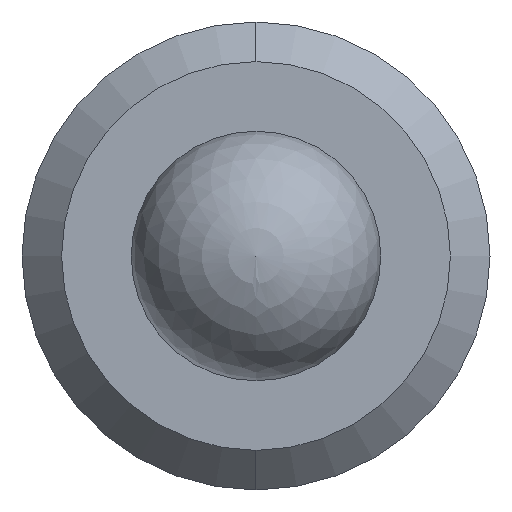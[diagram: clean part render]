
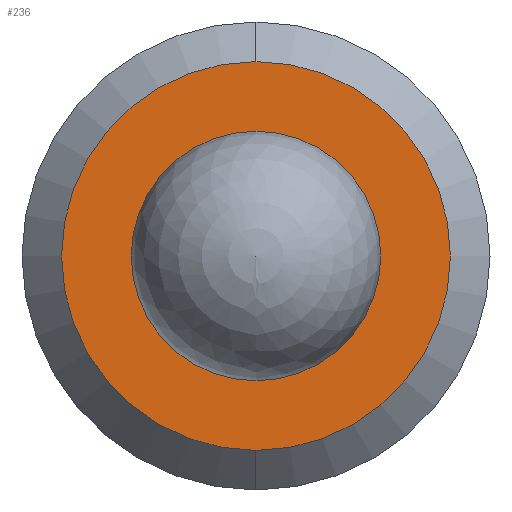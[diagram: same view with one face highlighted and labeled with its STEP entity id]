
A CAD part, left-side view. The second image highlights one B-rep face of the part: STEP entity #236.
In plain terms, the highlighted planar face has unit normal (-1, 0, 0).
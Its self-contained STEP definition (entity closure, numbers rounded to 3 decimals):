
#1 = CARTESIAN_POINT ( 'NONE',  ( 0., 0., 0. ) ) ;
#9 = DIRECTION ( 'NONE',  ( 0., 0., -1. ) ) ;
#18 = VERTEX_POINT ( 'NONE', #433 ) ;
#30 = EDGE_LOOP ( 'NONE', ( #33, #454 ) ) ;
#33 = ORIENTED_EDGE ( 'NONE', *, *, #330, .F. ) ;
#36 = DIRECTION ( 'NONE',  ( 0., 0., -1. ) ) ;
#37 = FACE_OUTER_BOUND ( 'NONE', #437, .T. ) ;
#41 = DIRECTION ( 'NONE',  ( -1., 0., 0. ) ) ;
#43 = CARTESIAN_POINT ( 'NONE',  ( 0., 0., 0. ) ) ;
#47 = DIRECTION ( 'NONE',  ( -1., 0., 0. ) ) ;
#50 = AXIS2_PLACEMENT_3D ( 'NONE', #584, #582, #576 ) ;
#52 = CARTESIAN_POINT ( 'NONE',  ( 0., 0., 0. ) ) ;
#57 = FACE_BOUND ( 'NONE', #30, .T. ) ;
#71 = ORIENTED_EDGE ( 'NONE', *, *, #343, .T. ) ;
#72 = AXIS2_PLACEMENT_3D ( 'NONE', #1, #295, #215 ) ;
#75 = ORIENTED_EDGE ( 'NONE', *, *, #355, .T. ) ;
#77 = AXIS2_PLACEMENT_3D ( 'NONE', #43, #41, #36 ) ;
#81 = AXIS2_PLACEMENT_3D ( 'NONE', #52, #47, #255 ) ;
#119 = AXIS2_PLACEMENT_3D ( 'NONE', #595, #575, #9 ) ;
#215 = DIRECTION ( 'NONE',  ( 0., 0., -1. ) ) ;
#236 = ADVANCED_FACE ( 'NONE', ( #57, #37 ), #606, .F. ) ;
#246 = CIRCLE ( 'NONE', #50, 0.8 ) ;
#255 = DIRECTION ( 'NONE',  ( 0., 0., 1. ) ) ;
#262 = CARTESIAN_POINT ( 'NONE',  ( 0., 0., -1.246 ) ) ;
#288 = CIRCLE ( 'NONE', #77, 1.246 ) ;
#295 = DIRECTION ( 'NONE',  ( -1., 0., 0. ) ) ;
#320 = VERTEX_POINT ( 'NONE', #262 ) ;
#330 = EDGE_CURVE ( 'NONE', #18, #339, #503, .T. ) ;
#339 = VERTEX_POINT ( 'NONE', #474 ) ;
#343 = EDGE_CURVE ( 'NONE', #320, #475, #288, .T. ) ;
#355 = EDGE_CURVE ( 'NONE', #475, #320, #405, .T. ) ;
#405 = CIRCLE ( 'NONE', #72, 1.246 ) ;
#415 = EDGE_CURVE ( 'NONE', #339, #18, #246, .T. ) ;
#433 = CARTESIAN_POINT ( 'NONE',  ( 0., 0., 0.8 ) ) ;
#437 = EDGE_LOOP ( 'NONE', ( #71, #75 ) ) ;
#454 = ORIENTED_EDGE ( 'NONE', *, *, #415, .F. ) ;
#474 = CARTESIAN_POINT ( 'NONE',  ( 0., 0., -0.8 ) ) ;
#475 = VERTEX_POINT ( 'NONE', #510 ) ;
#503 = CIRCLE ( 'NONE', #81, 0.8 ) ;
#510 = CARTESIAN_POINT ( 'NONE',  ( 0., 0., 1.246 ) ) ;
#575 = DIRECTION ( 'NONE',  ( 1., 0., 0. ) ) ;
#576 = DIRECTION ( 'NONE',  ( 0., 0., 1. ) ) ;
#582 = DIRECTION ( 'NONE',  ( -1., 0., 0. ) ) ;
#584 = CARTESIAN_POINT ( 'NONE',  ( 0., 0., 0. ) ) ;
#595 = CARTESIAN_POINT ( 'NONE',  ( 0., 0., 0. ) ) ;
#606 = PLANE ( 'NONE',  #119 ) ;
